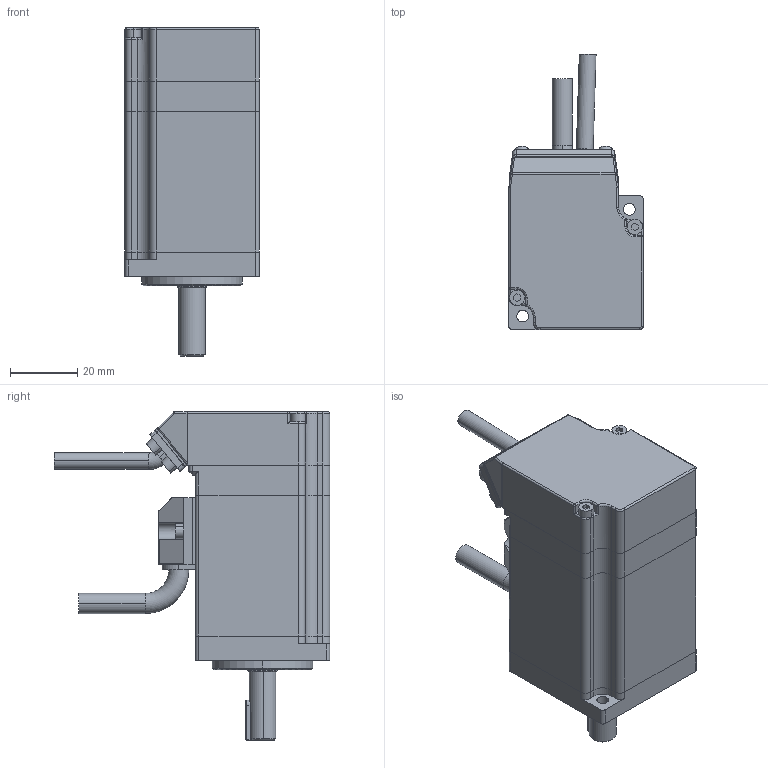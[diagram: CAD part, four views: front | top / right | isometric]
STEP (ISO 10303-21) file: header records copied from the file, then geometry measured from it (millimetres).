
FILE_DESCRIPTION (( 'STEP AP203' ), '1' );
FILE_NAME ('萇儂軞蚾-L18-NL(A1+S1).STEP', '2021-10-26T07:31:42', ( '' ), ( '' ), 'SwSTEP 2.0', 'SolidWorks 2018', '' );
FILE_SCHEMA (( 'CONFIG_CONTROL_DESIGN' ));
Length unit declared in the file: millimetre
Products named in the file (1): 萇儂軞蚾-L18-NL(A1+S1)
Bounding box: 40 x 82.11 x 98 mm (x, y, z)
Volume: 64369.9 mm3; surface area: 47156.5 mm2
Topology: 24 solids, 25 shells, 868 faces, 2128 edges, 1344 vertices
Faces by surface type: cylinder 397, plane 329, cone 108, torus 19, sphere 13, bspline 2
Entity records: 26032 total; most frequent: CARTESIAN_POINT 4739, DIRECTION 4717, ORIENTED_EDGE 4228, EDGE_CURVE 2114, AXIS2_PLACEMENT_3D 1796, VERTEX_POINT 1342, VECTOR 1125, LINE 1125
